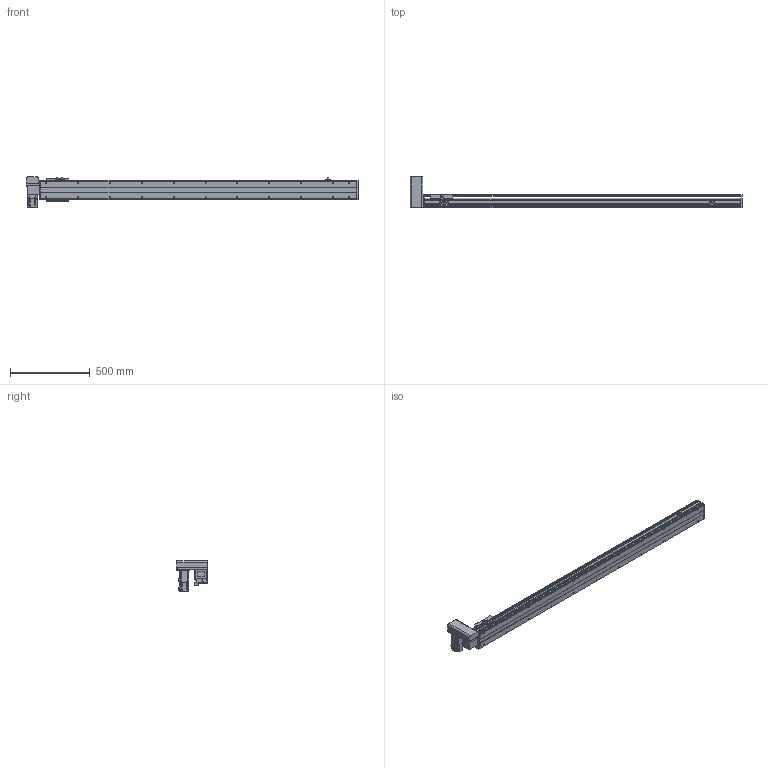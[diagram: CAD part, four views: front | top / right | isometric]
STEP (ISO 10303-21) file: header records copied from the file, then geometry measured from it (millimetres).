
FILE_DESCRIPTION( ( 'STEP AP214' ), '1' );
FILE_NAME( 'x:/temp/worker_27/temp/exporttempdir_6708_239_d8WHK/format_0/PBS120-P40-S1700-RU-T40-C1-N(0).stp', '2022-06-06T00:50:23', ( 'License CC BY-ND 4.0' ), ( 'CADENAS' ), ' ', 'PARTsolutions', ' ' );
FILE_SCHEMA( ( 'AUTOMOTIVE_DESIGN { 1 0 10303 214 1 1 1 1 }' ) );
Length unit declared in the file: millimetre
Products named in the file (7): PBS120-P40-S1700-RU-T40-C1-N(0); _PBS120-S1700()_body; _PBS120T-RU_motors; _T40-p1; _PBS120_sliser; _PBS120_plant; _PBS120_sensor
Assembly tree (8 placements, depth 2):
  PBS120-P40-S1700-RU-T40-C1-N(0)
    _PBS120-S1700()_body
    _PBS120T-RU_motors
    _T40-p1
    _PBS120_sliser
    _PBS120_plant
    _PBS120_sensor  x3
Bounding box: 2086 x 198 x 189.7 mm (x, y, z)
Volume: 8239656.5 mm3; surface area: 1666535 mm2
Topology: 8 solids, 8 shells, 846 faces, 2186 edges, 1405 vertices
Faces by surface type: plane 555, cylinder 235, cone 54, torus 2
Full cylindrical faces by diameter (mm): 2.459 x6, 3.242 x4, 4 x2, 4.134 x4, 4.5 x10, 4.917 x26, 5.5 x11, 6 x2, 6.6 x1, 7 x2, 8.5 x4, 9 x4, 12 x1, 14 x1, 30 x2, 40 x1, 50 x2
Entity records: 27828 total; most frequent: DIRECTION 3812, CARTESIAN_POINT 3731, ORIENTED_EDGE 3538, EDGE_CURVE 1769, AXIS2_PLACEMENT_3D 1292, LINE 1228, VECTOR 1228, VERTEX_POINT 1211
